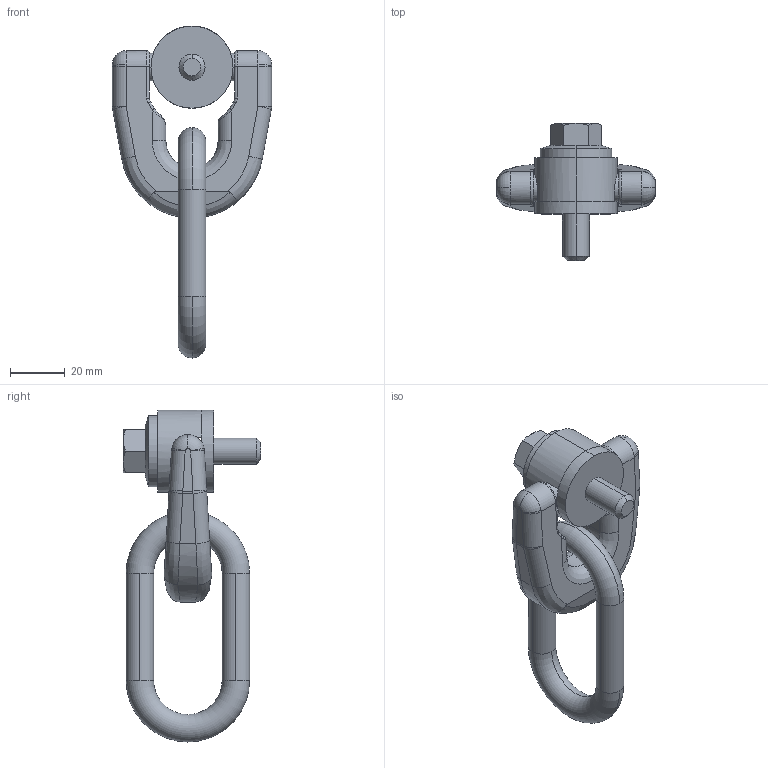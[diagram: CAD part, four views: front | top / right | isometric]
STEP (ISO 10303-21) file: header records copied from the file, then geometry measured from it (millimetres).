
FILE_DESCRIPTION (( 'STEP AP203' ), '1' );
FILE_NAME ('63150.W0238.step', '2013-12-13T11:54:37', ( 'User' ), ( '' ), 'SwSTEP 2.0', 'SolidWorks 2009', '' );
FILE_SCHEMA (( 'CONFIG_CONTROL_DESIGN' ));
Length unit declared in the file: millimetre
Products named in the file (4): Part1_63150.W0238; 63150.W0238; Part2A; Part3_63150.W0238
Assembly tree (3 placements, depth 2):
  63150.W0238
    Part3_63150.W0238
    Part2A
    Part1_63150.W0238
Bounding box: 58 x 50 x 121 mm (x, y, z)
Volume: 60113.5 mm3; surface area: 18931.5 mm2
Topology: 3 solids, 3 shells, 133 faces, 319 edges, 190 vertices
Faces by surface type: cylinder 41, bspline 33, plane 33, torus 12, cone 10, sphere 4
Entity records: 5611 total; most frequent: CARTESIAN_POINT 2343, ORIENTED_EDGE 634, DIRECTION 582, EDGE_CURVE 317, AXIS2_PLACEMENT_3D 237, VERTEX_POINT 190, EDGE_LOOP 137, ADVANCED_FACE 133
